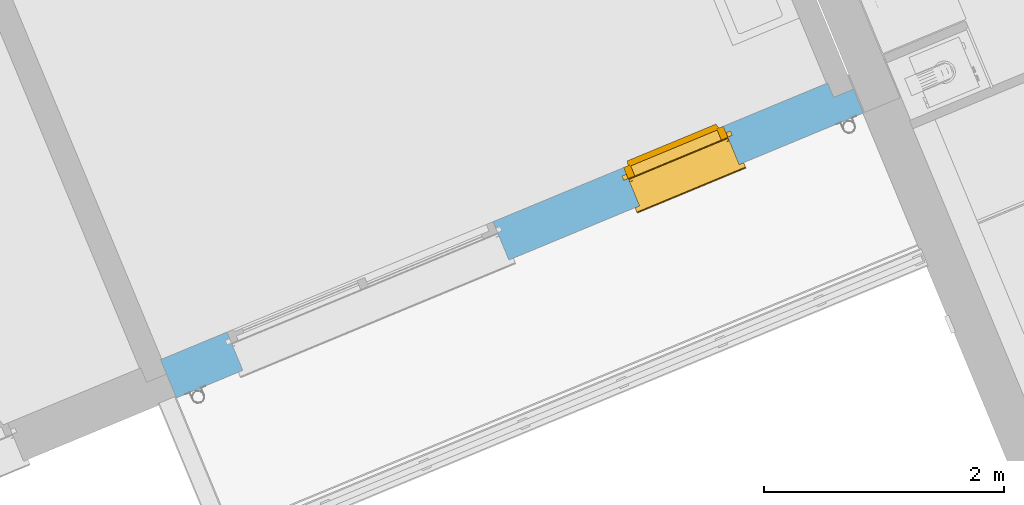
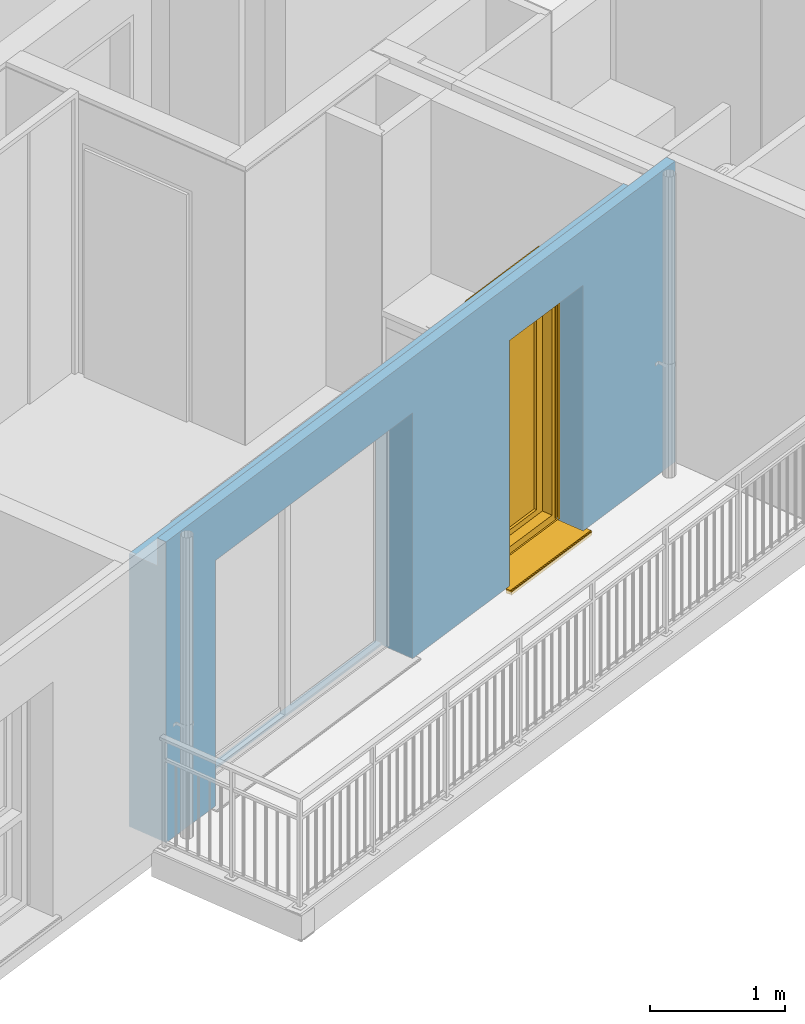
# One storey, part 8 of 90: 1 window, 2 openings, plus 1 element that does not belong to this part.
"""IFC2X3 building model written with IfcOpenShell, lengths in metres."""

from ifc_helpers import new_model, entity, si_unit, converted_unit, derived_unit, money_unit, direction, frame, origin_with_axes, place, context, subcontext, project, spatial, open_shell, faceted_brep, surface_model, material, material_list, type_object, element, fill, save


model = new_model("IFC2X3")

# Units and contexts
model_context = context("Model", 3, precision=1e-05, world=origin_with_axes(), true_north=direction((0.0, 1.0)))
body_context = subcontext(model_context, "Body", "Model", "MODEL_VIEW")
ifc_project = project(units=[si_unit("LENGTHUNIT", "METRE"), si_unit("AREAUNIT", "SQUARE_METRE"), si_unit("VOLUMEUNIT", "CUBIC_METRE"), converted_unit("PLANEANGLEUNIT", "DEGREE", entity("IfcPlaneAngleMeasure", 0.0174532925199), si_unit("PLANEANGLEUNIT", "RADIAN"), dimensions=[0, 0, 0, 0, 0, 0, 0]), si_unit("SOLIDANGLEUNIT", "STERADIAN"), money_unit("EUR"), converted_unit("TIMEUNIT", "Year", entity("IfcTimeMeasure", 31556926.0), si_unit("TIMEUNIT", "SECOND"), dimensions=[0, 0, 1, 0, 0, 0, 0]), si_unit("MASSUNIT", "GRAM", prefix="KILO"), si_unit("THERMODYNAMICTEMPERATUREUNIT", "DEGREE_CELSIUS"), si_unit("LUMINOUSINTENSITYUNIT", "LUMEN"), si_unit("ENERGYUNIT", "JOULE", prefix="MEGA"), derived_unit("THERMALCONDUCTANCEUNIT", [(si_unit("POWERUNIT", "WATT"), 1), (si_unit("LENGTHUNIT", "METRE"), -1), (si_unit("THERMODYNAMICTEMPERATUREUNIT", "KELVIN"), -1)]), derived_unit("SPECIFICHEATCAPACITYUNIT", [(si_unit("ENERGYUNIT", "JOULE"), 1), (si_unit("MASSUNIT", "GRAM", prefix="KILO"), -1), (si_unit("THERMODYNAMICTEMPERATUREUNIT", "KELVIN"), -1)]), derived_unit("MASSDENSITYUNIT", [(si_unit("MASSUNIT", "GRAM", prefix="KILO"), 1), (si_unit("VOLUMEUNIT", "CUBIC_METRE"), -1)])], contexts=[model_context])

# Site, building, storey
site_placement = place(None, origin_with_axes())
site = spatial("IfcSite", under=ifc_project, at=site_placement, Name="Site", CompositionType="ELEMENT")
building_placement = place(site_placement, origin_with_axes())
building = spatial("IfcBuilding", under=site, at=building_placement, Name="Bâtiment", CompositionType="ELEMENT")
storey_placement = place(building_placement, frame((0.0, 0.0, 2.72), z_axis=(0.0, 0.0, 1.0), x_axis=(1.0, 0.0, 0.0)))
storey = spatial("IfcBuildingStorey", under=building, at=storey_placement, Name="R+1", CompositionType="ELEMENT", Elevation=2.72)

# Wall, openings, window
ifc_material_1 = material(Name="Finition int - Plaque de plâtre")
ifc_material_2 = material(Name="Isolation - Polystyrène extrudé")
ifc_material_3 = material(Name="Bloc ELITHERM")
ifc_material_4 = material(Name="Isolation - Polystyrène expansé")
ifc_material_5 = material(Name="Mortier")
ifc_material_6 = material(Name="Béton cellulaire")
ifc_material_7 = material(Name="Finition ext - Crépis")
ifc_material_list = material_list([ifc_material_1, ifc_material_2, ifc_material_3, ifc_material_4, ifc_material_5, ifc_material_6, ifc_material_7])
wall_type = type_object("IfcWallType", Name="Mur ALKERN + planelle 25 345 x 2720", PredefinedType="USERDEFINED")
wall_placement = place(storey_placement, frame((-27.3367270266, -27.0787857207, 0.0), z_axis=(0.0, 0.0, 1.0), x_axis=(0.923701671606, 0.383112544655, 0.0)))
wall = element("IfcWall", 1, at=wall_placement, inside=storey, type_object=wall_type, material=ifc_material_list, Name="Mue bloc ALKERN isolé", ObjectType="SOLIDWALL", context=body_context, shape_type="Brep", body=[
    faceted_brep([(0.0, 0.334999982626, 0.0), (6.01608839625, 0.334999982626, 0.0), (6.01608839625, 0.334999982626, 2.47000000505), (0.0, 0.334999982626, 2.47000000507), (0.598463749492, 0.334999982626, 2.22), (0.598463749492, 0.334999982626, 2.4), (2.99846374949, 0.334999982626, 2.4), (2.99846374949, 0.334999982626, 2.22), (2.99846374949, 0.334999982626, 0.02), (0.598463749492, 0.334999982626, 0.02), (4.17589093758, 0.334999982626, 2.22), (4.17589093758, 0.334999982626, 2.4), (5.07589093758, 0.334999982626, 2.4), (5.07589093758, 0.334999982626, 2.22), (5.07589093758, 0.334999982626, 0.02), (4.17589093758, 0.334999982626, 0.02), (0.0, 0.344999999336, 0.0), (6.01608839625, 0.344999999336, 0.0), (6.01608839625, 0.344999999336, 2.47000000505), (0.0, 0.344999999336, 2.47000000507), (0.598463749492, 0.344999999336, 2.22), (0.598463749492, 0.344999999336, 2.4), (0.598463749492, 0.344999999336, 0.02), (2.99846374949, 0.344999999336, 2.4), (2.99846374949, 0.344999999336, 2.22), (2.99846374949, 0.344999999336, 0.02), (4.17589093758, 0.344999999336, 2.22), (4.17589093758, 0.344999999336, 2.4), (4.17589093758, 0.344999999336, 0.02), (5.07589093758, 0.344999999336, 2.4), (5.07589093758, 0.344999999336, 2.22), (5.07589093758, 0.344999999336, 0.02)], [[[0, 1, 2, 3], [4, 5, 6, 7, 8, 9], [10, 11, 12, 13, 14, 15]], [[16, 17, 1, 0]], [[17, 18, 2, 1]], [[3, 2, 18, 19]], [[16, 0, 3, 19]], [[20, 21, 5, 4, 9, 22]], [[21, 23, 6, 5]], [[7, 6, 23, 24, 25, 8]], [[22, 9, 8, 25]], [[26, 27, 11, 10, 15, 28]], [[12, 11, 27, 29]], [[13, 12, 29, 30, 31, 14]], [[14, 31, 28, 15]], [[19, 18, 17, 16], [21, 20, 22, 25, 24, 23], [27, 26, 28, 31, 30, 29]]]),
    faceted_brep([(5.07589093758, 0.286, 0.02), (5.07589093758, 0.286, 0.0), (5.07589093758, 0.215000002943, 0.0), (5.07589093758, 0.215000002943, 0.02), (5.07589093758, 0.215, 2.22), (5.07589093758, 0.215, 2.4), (5.07589093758, 0.334999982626, 2.4), (5.07589093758, 0.334999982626, 2.22), (5.07589093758, 0.334999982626, 0.02), (4.17589093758, 0.286, 0.02), (4.17589093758, 0.286, 0.0), (4.17589093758, 0.215000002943, 0.0), (2.99846374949, 0.215000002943, 0.0), (2.99846374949, 0.286, 0.0), (0.598463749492, 0.286, 0.0), (0.598463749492, 0.215000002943, 0.0), (0.0, 0.215000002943, 0.0), (0.0, 0.334999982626, 0.0), (6.01608839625, 0.334999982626, 0.0), (6.01608839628, 0.215000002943, 0.0), (4.17589093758, 0.215000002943, 0.02), (4.17589093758, 0.215, 2.22), (4.17589093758, 0.215, 2.4), (6.01608839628, 0.215000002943, 2.47000000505), (0.0, 0.215000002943, 2.47000000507), (0.598463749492, 0.215000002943, 0.02), (0.598463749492, 0.215, 2.22), (0.598463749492, 0.215, 2.4), (2.99846374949, 0.215, 2.4), (2.99846374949, 0.215, 2.22), (2.99846374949, 0.215000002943, 0.02), (4.17589093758, 0.334999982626, 2.4), (0.0, 0.334999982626, 2.47000000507), (6.01608839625, 0.334999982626, 2.47000000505), (2.99846374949, 0.334999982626, 0.02), (2.99846374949, 0.334999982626, 2.22), (2.99846374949, 0.334999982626, 2.4), (0.598463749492, 0.334999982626, 2.4), (0.598463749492, 0.334999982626, 2.22), (0.598463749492, 0.334999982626, 0.02), (4.17589093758, 0.334999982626, 2.22), (4.17589093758, 0.334999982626, 0.02), (2.99846374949, 0.286, 0.02), (0.598463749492, 0.286, 0.02)], [[[0, 1, 2, 3, 4, 5, 6, 7, 8]], [[0, 9, 10, 1]], [[10, 11, 12, 13, 14, 15, 16, 17, 18, 19, 2, 1]], [[11, 20, 21, 22, 5, 4, 3, 2, 19, 23, 24, 16, 15, 25, 26, 27, 28, 29, 30, 12]], [[22, 31, 6, 5]], [[32, 33, 18, 17], [34, 35, 36, 37, 38, 39], [8, 7, 6, 31, 40, 41]], [[9, 0, 8, 41]], [[20, 11, 10, 9, 41, 40, 31, 22, 21]], [[36, 35, 34, 42, 13, 12, 30, 29, 28]], [[42, 43, 14, 13]], [[37, 27, 26, 25, 15, 14, 43, 39, 38]], [[17, 16, 24, 32]], [[18, 33, 23, 19]], [[24, 23, 33, 32]], [[27, 37, 36, 28]], [[43, 42, 34, 39]]]),
    faceted_brep([(5.07589093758, 0.015, 0.02), (5.07589093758, 0.015, 0.0), (6.19608837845, 0.015, 0.0), (6.19608837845, 0.015, 2.47000000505), (0.0, 0.015, 2.47000000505), (0.0, 0.015, 0.0), (0.598463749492, 0.015, 0.0), (0.598463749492, 0.015, 0.02), (0.598463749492, 0.015, 2.22), (2.99846374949, 0.015, 2.22), (2.99846374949, 0.015, 0.02), (2.99846374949, 0.015, 0.0), (4.17589093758, 0.015, 0.0), (4.17589093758, 0.015, 0.02), (4.17589093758, 0.015, 2.22), (5.07589093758, 0.015, 2.22), (5.07589093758, 0.215000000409, 0.02), (5.07589093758, 0.215000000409, 0.0), (6.1960883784, 0.215000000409, 0.0), (6.1960883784, 0.215000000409, 2.47000000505), (6.19608837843, 0.0830000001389, 2.47000000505), (0.0, 0.0830000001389, 2.47000000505), (0.0, 0.215000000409, 2.47000000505), (0.0, 0.215000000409, 0.0), (0.598463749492, 0.215000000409, 0.0), (0.598463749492, 0.215000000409, 0.02), (0.598463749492, 0.215000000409, 2.22), (2.99846374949, 0.215000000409, 2.22), (2.99846374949, 0.215000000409, 0.02), (2.99846374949, 0.215000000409, 0.0), (4.17589093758, 0.215000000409, 0.0), (4.17589093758, 0.215000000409, 0.02), (4.17589093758, 0.215000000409, 2.22), (5.07589093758, 0.215000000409, 2.22)], [[[0, 1, 2, 3, 4, 5, 6, 7, 8, 9, 10, 11, 12, 13, 14, 15]], [[1, 0, 16, 17]], [[1, 17, 18, 2]], [[2, 18, 19, 20, 3]], [[4, 3, 20, 21]], [[21, 22, 23, 5, 4]], [[5, 23, 24, 6]], [[6, 24, 25, 7]], [[26, 8, 7, 25]], [[27, 9, 8, 26]], [[9, 27, 28, 10]], [[28, 29, 11, 10]], [[30, 12, 11, 29]], [[31, 13, 12, 30]], [[13, 31, 32, 14]], [[14, 32, 33, 15]], [[16, 0, 15, 33]], [[17, 16, 33, 32, 31, 30, 29, 28, 27, 26, 25, 24, 23, 22, 19, 18]], [[21, 20, 19, 22]]]),
    faceted_brep([(0.0, 0.063, 2.48000000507), (6.01608839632, 0.063, 2.48000000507), (6.01608839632, 0.063, 2.52), (6.19608839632, 0.063, 2.52), (6.19608839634, 0.063, 2.72000000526), (0.0, 0.063, 2.72000000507), (0.0, 0.083, 2.48000000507), (6.01608839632, 0.083, 2.48000000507), (6.01608839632, 0.0829999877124, 2.52), (6.19608839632, 0.0829999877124, 2.52), (6.19608839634, 0.0829999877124, 2.72000000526), (0.0, 0.083, 2.72000000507)], [[[0, 1, 2, 3, 4, 5]], [[6, 7, 1, 0]], [[8, 2, 1, 7]], [[8, 9, 3, 2]], [[4, 3, 9, 10]], [[11, 5, 4, 10]], [[11, 6, 0, 5]], [[9, 8, 7, 6, 11, 10]]]),
    faceted_brep([(0.0, 0.015, 2.47000000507), (6.19608837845, 0.015, 2.47000000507), (6.19608837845, 0.015, 2.48000000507), (0.0, 0.015, 2.48000000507), (0.0, 0.083, 2.47000000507), (6.19608837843, 0.083, 2.47000000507), (6.19608837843, 0.083, 2.48000000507), (0.0, 0.083, 2.48000000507)], [[[0, 1, 2, 3]], [[4, 5, 1, 0]], [[5, 6, 2, 1]], [[3, 2, 6, 7]], [[0, 3, 7, 4]], [[7, 6, 5, 4]]]),
    faceted_brep([(0.0, 0.015, 2.48000000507), (6.19608837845, 0.015, 2.48000000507), (6.19608837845, 0.015, 2.52), (6.19608839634, 0.015, 2.72000000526), (0.0, 0.015, 2.72000000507), (0.0, 0.0630000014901, 2.48000000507), (6.19608837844, 0.0630000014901, 2.48000000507), (6.19608837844, 0.0630000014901, 2.52), (6.19608839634, 0.0630000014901, 2.72000000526), (0.0, 0.0630000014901, 2.72000000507)], [[[0, 1, 2, 3, 4]], [[5, 6, 1, 0]], [[6, 7, 2, 1]], [[3, 2, 7, 8]], [[4, 3, 8, 9]], [[4, 9, 5, 0]], [[8, 7, 6, 5, 9]]]),
    faceted_brep([(5.07589093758, 0.0, 0.02), (5.07589093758, 0.0, 0.0), (6.19608837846, 0.0, 0.0), (6.19608837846, 5.21252374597e-10, 2.52), (6.19608839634, 5.21252374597e-10, 2.72000000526), (0.0, 0.0, 2.72000000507), (0.0, 0.0, 0.0), (0.598463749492, 0.0, 0.0), (0.598463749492, 0.0, 0.02), (0.598463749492, 0.0, 2.22), (2.99846374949, 0.0, 2.22), (2.99846374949, 0.0, 0.02), (2.99846374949, 0.0, 0.0), (4.17589093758, 0.0, 0.0), (4.17589093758, 0.0, 0.02), (4.17589093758, 0.0, 2.22), (5.07589093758, 0.0, 2.22), (5.07589093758, 0.014999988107, 0.02), (5.07589093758, 0.014999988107, 0.0), (6.19608837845, 0.014999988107, 0.0), (6.19608837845, 0.014999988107, 2.52), (6.19608839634, 0.014999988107, 2.72000000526), (0.0, 0.014999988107, 2.72000000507), (0.0, 0.014999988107, 0.0), (0.598463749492, 0.014999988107, 0.0), (0.598463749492, 0.014999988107, 0.02), (0.598463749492, 0.014999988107, 2.22), (2.99846374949, 0.014999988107, 2.22), (2.99846374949, 0.014999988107, 0.02), (2.99846374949, 0.014999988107, 0.0), (4.17589093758, 0.014999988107, 0.0), (4.17589093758, 0.014999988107, 0.02), (4.17589093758, 0.014999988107, 2.22), (5.07589093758, 0.014999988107, 2.22)], [[[0, 1, 2, 3, 4, 5, 6, 7, 8, 9, 10, 11, 12, 13, 14, 15, 16]], [[1, 0, 17, 18]], [[1, 18, 19, 2]], [[2, 19, 20, 3]], [[21, 4, 3, 20]], [[22, 5, 4, 21]], [[23, 6, 5, 22]], [[6, 23, 24, 7]], [[7, 24, 25, 8]], [[26, 9, 8, 25]], [[27, 10, 9, 26]], [[10, 27, 28, 11]], [[28, 29, 12, 11]], [[30, 13, 12, 29]], [[31, 14, 13, 30]], [[14, 31, 32, 15]], [[15, 32, 33, 16]], [[17, 0, 16, 33]], [[18, 17, 33, 32, 31, 30, 29, 28, 27, 26, 25, 24, 23, 22, 21, 20, 19]]]),
])
opening_1_placement = place(wall_placement, frame((1.79846374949, 0.0, 0.02), z_axis=(0.0, 0.0, 1.0), x_axis=(1.0, 0.0, 0.0)))
element("IfcOpeningElement", 2, at=opening_1_placement, cuts=wall, Name="MEN 55", context=body_context, shape_type="Brep", body=[
    faceted_brep([(1.2, 0.245, 0.0), (-1.2, 0.245, 0.0), (-1.2, 0.834999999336, 0.0), (1.2, 0.834999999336, 0.0), (1.2, 0.245, 2.2), (-1.2, 0.245, 2.2), (-1.2, 0.834999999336, 2.2), (1.2, 0.834999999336, 2.2)], [[[0, 1, 2, 3]], [[0, 4, 5, 1]], [[1, 5, 6, 2]], [[3, 2, 6, 7]], [[4, 0, 3, 7]], [[5, 4, 7, 6]]]),
    faceted_brep([(1.2, 0.245, 0.0), (1.2, 0.245, 2.2), (1.2, -0.344999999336, 2.2), (1.2, -0.344999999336, 0.0), (-1.2, 0.245, 0.0), (-1.2, 0.245, 2.2), (-1.2, -0.344999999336, 2.2), (-1.2, -0.344999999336, 0.0)], [[[0, 1, 2, 3]], [[0, 4, 5, 1]], [[1, 5, 6, 2]], [[3, 2, 6, 7]], [[4, 0, 3, 7]], [[5, 4, 7, 6]]]),
    faceted_brep([(1.2, 0.245, 0.0), (1.2, 0.245, 2.2), (1.2, -0.344999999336, 2.2), (1.2, -0.344999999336, 0.0), (-1.2, 0.245, 0.0), (-1.2, 0.245, 2.2), (-1.2, -0.344999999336, 2.2), (-1.2, -0.344999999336, 0.0)], [[[0, 1, 2, 3]], [[0, 4, 5, 1]], [[1, 5, 6, 2]], [[3, 2, 6, 7]], [[4, 0, 3, 7]], [[5, 4, 7, 6]]]),
    faceted_brep([(1.2, 0.215, 2.2), (-1.2, 0.215, 2.2), (-1.2, 0.804999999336, 2.2), (1.2, 0.804999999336, 2.2), (1.2, 0.215, 2.38), (-1.2, 0.215, 2.38), (-1.2, 0.804999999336, 2.38), (1.2, 0.804999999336, 2.38)], [[[0, 1, 2, 3]], [[0, 4, 5, 1]], [[1, 5, 6, 2]], [[3, 2, 6, 7]], [[4, 0, 3, 7]], [[5, 4, 7, 6]]]),
    faceted_brep([(1.2, 0.286, 0.0), (-1.2, 0.286, 0.0), (-1.2, -0.303999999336, 0.0), (1.2, -0.303999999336, 0.0), (1.2, 0.286, -0.06), (-1.2, 0.286, -0.06), (-1.2, -0.303999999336, -0.06), (1.2, -0.303999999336, -0.06)], [[[0, 1, 2, 3]], [[0, 4, 5, 1]], [[1, 5, 6, 2]], [[3, 2, 6, 7]], [[4, 0, 3, 7]], [[5, 4, 7, 6]]]),
])
opening_2_placement = place(wall_placement, frame((4.62589093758, 0.0, 0.02), z_axis=(0.0, 0.0, 1.0), x_axis=(1.0, 0.0, 0.0)))
opening_2 = element("IfcOpeningElement", 3, at=opening_2_placement, cuts=wall, Name="MEN 56", context=body_context, shape_type="Brep", body=[
    faceted_brep([(-0.45, 0.834999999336, 0.0), (0.45, 0.834999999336, 0.0), (0.45, 0.245, 0.0), (-0.45, 0.245, 0.0), (-0.45, 0.834999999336, 2.2), (0.45, 0.834999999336, 2.2), (0.45, 0.245, 2.2), (-0.45, 0.245, 2.2)], [[[0, 1, 2, 3]], [[0, 4, 5, 1]], [[1, 5, 6, 2]], [[3, 2, 6, 7]], [[4, 0, 3, 7]], [[5, 4, 7, 6]]]),
    faceted_brep([(-0.45, -0.344999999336, 0.0), (-0.45, -0.344999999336, 2.2), (-0.45, 0.245, 2.2), (-0.45, 0.245, 0.0), (0.45, -0.344999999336, 0.0), (0.45, -0.344999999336, 2.2), (0.45, 0.245, 2.2), (0.45, 0.245, 0.0)], [[[0, 1, 2, 3]], [[0, 4, 5, 1]], [[1, 5, 6, 2]], [[3, 2, 6, 7]], [[4, 0, 3, 7]], [[5, 4, 7, 6]]]),
    faceted_brep([(-0.45, -0.344999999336, 0.0), (-0.45, -0.344999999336, 2.2), (-0.45, 0.245, 2.2), (-0.45, 0.245, 0.0), (0.45, -0.344999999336, 0.0), (0.45, -0.344999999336, 2.2), (0.45, 0.245, 2.2), (0.45, 0.245, 0.0)], [[[0, 1, 2, 3]], [[0, 4, 5, 1]], [[1, 5, 6, 2]], [[3, 2, 6, 7]], [[4, 0, 3, 7]], [[5, 4, 7, 6]]]),
    faceted_brep([(-0.45, 0.804999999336, 2.2), (0.45, 0.804999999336, 2.2), (0.45, 0.215, 2.2), (-0.45, 0.215, 2.2), (-0.45, 0.804999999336, 2.38), (0.45, 0.804999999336, 2.38), (0.45, 0.215, 2.38), (-0.45, 0.215, 2.38)], [[[0, 1, 2, 3]], [[0, 4, 5, 1]], [[1, 5, 6, 2]], [[3, 2, 6, 7]], [[4, 0, 3, 7]], [[5, 4, 7, 6]]]),
    faceted_brep([(-0.45, -0.303999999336, 0.0), (0.45, -0.303999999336, 0.0), (0.45, 0.286, 0.0), (-0.45, 0.286, 0.0), (-0.45, -0.303999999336, -0.06), (0.45, -0.303999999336, -0.06), (0.45, 0.286, -0.06), (-0.45, 0.286, -0.06)], [[[0, 1, 2, 3]], [[0, 4, 5, 1]], [[1, 5, 6, 2]], [[3, 2, 6, 7]], [[4, 0, 3, 7]], [[5, 4, 7, 6]]]),
])
window_style = type_object("IfcWindowStyle", Name="Baie générique 2017 v2", ConstructionType="NOTDEFINED", OperationType="NOTDEFINED", ParameterTakesPrecedence=False, Sizeable=False)
window_placement = place(opening_2_placement, frame((-0.45, 0.0, 0.0), z_axis=(0.0, 0.0, 1.0), x_axis=(1.0, 0.0, 0.0)))
window = element("IfcWindow", 4, at=window_placement, inside=storey, type_object=window_style, Name="MEN 56", ObjectType="WINDOW", OverallHeight=2.2, OverallWidth=0.9, context=body_context, shape_type="SurfaceModel", body=[
    faceted_brep([(0.0, 0.345, 0.0), (0.9, 0.345, 0.0), (0.9, 0.245, 0.0), (0.0, 0.245, 0.0), (0.0, 0.345, 2.2), (0.9, 0.345, 2.2), (0.06, 0.345, 0.05), (0.84, 0.345, 0.05), (0.84, 0.345, 2.15), (0.06, 0.345, 2.15), (0.9, 0.245, 2.2), (0.0, 0.245, 2.2), (0.06, 0.245, 0.05), (0.06, 0.245, 2.15), (0.84, 0.245, 2.15), (0.84, 0.245, 0.05)], [[[0, 1, 2, 3]], [[0, 4, 5, 1], [6, 7, 8, 9]], [[1, 5, 10, 2]], [[3, 2, 10, 11], [12, 13, 14, 15]], [[4, 0, 3, 11]], [[5, 4, 11, 10]], [[7, 6, 12, 15]], [[8, 7, 15, 14]], [[9, 8, 14, 13]], [[6, 9, 13, 12]]]),
    faceted_brep([(0.77, 0.335, 2.08), (0.77, 0.385, 2.08), (0.77, 0.385, 0.1), (0.77, 0.335, 0.1), (0.13, 0.335, 2.08), (0.13, 0.385, 2.08), (0.850012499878, 0.385000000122, 0.039987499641), (0.049987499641, 0.385000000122, 0.039987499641), (0.049987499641, 0.385000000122, 2.16001250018), (0.850012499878, 0.385000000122, 2.16001250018), (0.13, 0.385, 0.1), (0.13, 0.335, 0.1), (0.84, 0.335, 2.15), (0.06, 0.335, 2.15), (0.06, 0.335, 0.05), (0.84, 0.335, 0.05), (0.86, 0.34505, 0.03), (0.04, 0.34505, 0.03), (0.04, 0.34505, 2.17), (0.86, 0.34505, 2.17), (0.84, 0.34505, 2.15), (0.06, 0.34505, 2.15), (0.06, 0.34505, 0.05), (0.84, 0.34505, 0.05)], [[[0, 1, 2, 3]], [[4, 5, 1, 0]], [[6, 7, 8, 9], [2, 1, 5, 10]], [[11, 3, 2, 10]], [[12, 13, 14, 15], [0, 3, 11, 4]], [[4, 11, 10, 5]], [[6, 16, 17, 7]], [[7, 17, 18, 8]], [[8, 18, 19, 9]], [[9, 19, 16, 6]], [[20, 21, 13, 12]], [[21, 22, 14, 13]], [[22, 23, 15, 14]], [[23, 20, 12, 15]], [[19, 18, 17, 16], [21, 20, 23, 22]]]),
    surface_model("IfcShellBasedSurfaceModel", [(0.06, 0.385, 0.05), (0.06, 0.36, 0.05), (0.06, 0.36, 2.15), (0.06, 0.385, 2.15)], [open_shell([[[0, 1, 2, 3]]])]),
    surface_model("IfcShellBasedSurfaceModel", [(0.84, 0.385, 0.05), (0.84, 0.36, 0.05), (0.84, 0.36, 2.15), (0.84, 0.385, 2.15)], [open_shell([[[0, 1, 2, 3]]])]),
    surface_model("IfcShellBasedSurfaceModel", [(0.06, 0.385, 0.05), (0.06, 0.36, 0.05), (0.84, 0.36, 0.05), (0.84, 0.385, 0.05)], [open_shell([[[0, 1, 2, 3]]])]),
    surface_model("IfcShellBasedSurfaceModel", [(0.06, 0.385, 2.15), (0.06, 0.36, 2.15), (0.84, 0.36, 2.15), (0.84, 0.385, 2.15)], [open_shell([[[0, 1, 2, 3]]])]),
    surface_model("IfcShellBasedSurfaceModel", [(0.06, 0.36, 0.05), (0.06, 0.335, 0.05), (0.06, 0.335, 2.15), (0.06, 0.36, 2.15)], [open_shell([[[0, 1, 2, 3]]])]),
    surface_model("IfcShellBasedSurfaceModel", [(0.84, 0.36, 0.05), (0.84, 0.335, 0.05), (0.84, 0.335, 2.15), (0.84, 0.36, 2.15)], [open_shell([[[0, 1, 2, 3]]])]),
    surface_model("IfcShellBasedSurfaceModel", [(0.06, 0.36, 0.05), (0.06, 0.335, 0.05), (0.84, 0.335, 0.05), (0.84, 0.36, 0.05)], [open_shell([[[0, 1, 2, 3]]])]),
    surface_model("IfcShellBasedSurfaceModel", [(0.06, 0.36, 2.15), (0.06, 0.335, 2.15), (0.84, 0.335, 2.15), (0.84, 0.36, 2.15)], [open_shell([[[0, 1, 2, 3]]])]),
    faceted_brep([(0.13, 0.3625, 0.1), (0.77, 0.3625, 0.1), (0.77, 0.3575, 0.1), (0.13, 0.3575, 0.1), (0.13, 0.3625, 2.08), (0.77, 0.3625, 2.08), (0.77, 0.3575, 2.08), (0.13, 0.3575, 2.08)], [[[0, 1, 2, 3]], [[0, 4, 5, 1]], [[1, 5, 6, 2]], [[3, 2, 6, 7]], [[4, 0, 3, 7]], [[5, 4, 7, 6]]]),
    faceted_brep([(0.0, 0.215, 0.0), (0.025, 0.215, 0.0), (0.025, 0.215, 2.2), (0.0, 0.215, 2.2), (0.0, 0.243, 0.0), (0.025, 0.243, 0.0), (0.025, 0.241, 0.0), (0.002, 0.241, 0.0), (0.002, 0.217, 0.0), (0.025, 0.217, 0.0), (0.025, 0.217, 2.2), (0.002, 0.217, 2.2), (0.002, 0.241, 2.2), (0.025, 0.241, 2.2), (0.025, 0.243, 2.2), (0.0, 0.243, 2.2)], [[[0, 1, 2, 3]], [[0, 4, 5, 6, 7, 8, 9, 1]], [[1, 9, 10, 2]], [[3, 2, 10, 11, 12, 13, 14, 15]], [[4, 0, 3, 15]], [[5, 4, 15, 14]], [[6, 5, 14, 13]], [[7, 6, 13, 12]], [[8, 7, 12, 11]], [[9, 8, 11, 10]]]),
    faceted_brep([(0.9, 0.215, 0.0), (0.9, 0.215, 2.2), (0.875, 0.215, 2.2), (0.875, 0.215, 0.0), (0.9, 0.243, 0.0), (0.9, 0.243, 2.2), (0.875, 0.243, 2.2), (0.875, 0.241, 2.2), (0.898, 0.241, 2.2), (0.898, 0.217, 2.2), (0.875, 0.217, 2.2), (0.875, 0.217, 0.0), (0.898, 0.217, 0.0), (0.898, 0.241, 0.0), (0.875, 0.241, 0.0), (0.875, 0.243, 0.0)], [[[0, 1, 2, 3]], [[4, 5, 1, 0]], [[1, 5, 6, 7, 8, 9, 10, 2]], [[3, 2, 10, 11]], [[0, 3, 11, 12, 13, 14, 15, 4]], [[15, 6, 5, 4]], [[14, 7, 6, 15]], [[13, 8, 7, 14]], [[12, 9, 8, 13]], [[11, 10, 9, 12]]]),
    faceted_brep([(0.898, 0.217, 2.2), (0.002, 0.217, 2.2), (0.002, 0.217, 2.378), (0.898, 0.217, 2.378), (0.898, 0.215, 2.2), (0.002, 0.215, 2.2), (0.002, 0.215, 2.38), (0.002, 0.415, 2.38), (0.002, 0.415, 2.2), (0.002, 0.413, 2.2), (0.002, 0.413, 2.378), (0.898, 0.413, 2.378), (0.898, 0.413, 2.2), (0.898, 0.415, 2.2), (0.898, 0.415, 2.38), (0.898, 0.215, 2.38)], [[[0, 1, 2, 3]], [[4, 5, 1, 0]], [[1, 5, 6, 7, 8, 9, 10, 2]], [[3, 2, 10, 11]], [[0, 3, 11, 12, 13, 14, 15, 4]], [[15, 6, 5, 4]], [[14, 7, 6, 15]], [[13, 8, 7, 14]], [[12, 9, 8, 13]], [[11, 10, 9, 12]]]),
    faceted_brep([(0.898, 0.317469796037, 2.27436337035), (0.898, 0.325, 2.29), (0.898, 0.317469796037, 2.30563662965), (0.898, 0.300549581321, 2.30949855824), (0.898, 0.286980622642, 2.29867767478), (0.898, 0.286980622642, 2.28132232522), (0.898, 0.300549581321, 2.27050144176), (0.002, 0.317469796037, 2.27436337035), (0.002, 0.325, 2.29), (0.002, 0.317469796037, 2.30563662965), (0.002, 0.300549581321, 2.30949855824), (0.002, 0.286980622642, 2.29867767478), (0.002, 0.286980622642, 2.28132232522), (0.002, 0.300549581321, 2.27050144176)], [[[0, 1, 2, 3, 4, 5, 6]], [[0, 7, 8, 1]], [[1, 8, 9, 2]], [[2, 9, 10, 3]], [[3, 10, 11, 4]], [[4, 11, 12, 5]], [[5, 12, 13, 6]], [[6, 13, 7, 0]], [[7, 13, 12, 11, 10, 9, 8]]]),
    faceted_brep([(0.888, 0.375275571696, 2.25615706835), (0.888, 0.383, 2.29), (0.888, 0.375275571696, 2.32384293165), (0.888, 0.353632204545, 2.35098285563), (0.888, 0.322356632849, 2.36604437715), (0.888, 0.287643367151, 2.36604437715), (0.888, 0.256367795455, 2.35098285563), (0.888, 0.234724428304, 2.32384293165), (0.888, 0.227, 2.29), (0.888, 0.234724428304, 2.25615706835), (0.888, 0.256367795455, 2.22901714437), (0.888, 0.287643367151, 2.21395562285), (0.888, 0.322356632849, 2.21395562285), (0.888, 0.353632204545, 2.22901714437), (0.012, 0.375275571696, 2.25615706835), (0.012, 0.383, 2.29), (0.012, 0.375275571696, 2.32384293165), (0.012, 0.353632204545, 2.35098285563), (0.012, 0.322356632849, 2.36604437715), (0.012, 0.287643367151, 2.36604437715), (0.012, 0.256367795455, 2.35098285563), (0.012, 0.234724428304, 2.32384293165), (0.012, 0.227, 2.29), (0.012, 0.234724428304, 2.25615706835), (0.012, 0.256367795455, 2.22901714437), (0.012, 0.287643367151, 2.21395562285), (0.012, 0.322356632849, 2.21395562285), (0.012, 0.353632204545, 2.22901714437)], [[[0, 1, 2, 3, 4, 5, 6, 7, 8, 9, 10, 11, 12, 13]], [[0, 14, 15, 1]], [[1, 15, 16, 2]], [[2, 16, 17, 3]], [[3, 17, 18, 4]], [[4, 18, 19, 5]], [[5, 19, 20, 6]], [[6, 20, 21, 7]], [[7, 21, 22, 8]], [[8, 22, 23, 9]], [[9, 23, 24, 10]], [[10, 24, 25, 11]], [[11, 25, 26, 12]], [[12, 26, 27, 13]], [[13, 27, 14, 0]], [[14, 27, 26, 25, 24, 23, 22, 21, 20, 19, 18, 17, 16, 15]]]),
    faceted_brep([(0.9, 0.415, 2.2), (0.898, 0.415, 2.2), (0.898, 0.415, 2.38), (0.9, 0.415, 2.38), (0.9, 0.215, 2.2), (0.898, 0.215, 2.2), (0.898, 0.215, 2.38), (0.9, 0.215, 2.38)], [[[0, 1, 2, 3]], [[4, 5, 1, 0]], [[1, 5, 6, 2]], [[3, 2, 6, 7]], [[0, 3, 7, 4]], [[7, 6, 5, 4]]]),
    faceted_brep([(0.002, 0.415, 2.2), (0.0, 0.415, 2.2), (0.0, 0.415, 2.38), (0.002, 0.415, 2.38), (0.002, 0.215, 2.2), (0.0, 0.215, 2.2), (0.0, 0.215, 2.38), (0.002, 0.215, 2.38)], [[[0, 1, 2, 3]], [[4, 5, 1, 0]], [[1, 5, 6, 2]], [[3, 2, 6, 7]], [[0, 3, 7, 4]], [[7, 6, 5, 4]]]),
    faceted_brep([(0.898, 0.241, 2.2), (0.002, 0.241, 2.2), (0.002, 0.413, 2.2), (0.898, 0.413, 2.2), (0.898, 0.241, 2.202), (0.002, 0.241, 2.202), (0.002, 0.413, 2.202), (0.898, 0.413, 2.202)], [[[0, 1, 2, 3]], [[4, 5, 1, 0]], [[1, 5, 6, 2]], [[3, 2, 6, 7]], [[0, 3, 7, 4]], [[7, 6, 5, 4]]]),
    faceted_brep([(0.012, 0.239, 2.2), (0.012, 0.239, 2.29), (0.888, 0.239, 2.29), (0.888, 0.239, 2.2), (0.012, 0.219, 2.2), (0.012, 0.219, 2.29), (0.888, 0.219, 2.29), (0.888, 0.219, 2.2)], [[[0, 1, 2, 3]], [[1, 0, 4, 5]], [[2, 1, 5, 6]], [[3, 2, 6, 7]], [[4, 0, 3, 7]], [[5, 4, 7, 6]]]),
    faceted_brep([(0.9, 0.243320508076, -0.01), (0.9, 0.245, -0.00373205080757), (0.94, 0.245, -0.00373205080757), (0.94, 0.246, 0.0), (-0.04, 0.246, 0.0), (-0.04, 0.245, -0.00373205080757), (0.0, 0.245, -0.00373205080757), (0.0, 0.243320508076, -0.01), (0.9, 0.236, -0.0173205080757), (0.9, 0.226, -0.02), (0.9, 0.0, -0.02), (0.9, 0.0, -0.06), (0.9, 0.245, -0.06), (0.94, 0.245, -0.06), (0.94, 0.286, -0.06), (0.94, 0.286, 0.0), (-0.04, 0.286, 0.0), (-0.04, 0.286, -0.06), (-0.04, 0.245, -0.06), (0.0, 0.245, -0.06), (0.0, 0.0, -0.02), (0.0, 0.226, -0.02), (0.0, 0.236, -0.0173205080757), (0.0, 0.0, -0.06), (-0.04, 0.0, -0.02), (-0.04, -0.04, -0.02), (0.94, -0.04, -0.02), (0.94, 0.0, -0.02), (0.94, 0.0, -0.06), (0.94, -0.03, -0.06), (-0.04, -0.03, -0.06), (-0.04, 0.0, -0.06), (-0.04, -0.05, -0.03), (-0.04, -0.0470710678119, -0.0229289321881), (-0.04, -0.03, -0.05), (-0.04, -0.04, -0.05), (-0.04, -0.04, -0.06), (-0.04, -0.05, -0.06), (0.94, -0.0470710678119, -0.0229289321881), (0.94, -0.05, -0.03), (0.94, -0.05, -0.06), (0.94, -0.04, -0.06), (0.94, -0.04, -0.05), (0.94, -0.03, -0.05)], [[[0, 1, 2, 3, 4, 5, 6, 7]], [[1, 0, 8, 9, 10, 11, 12]], [[13, 2, 1, 12]], [[2, 13, 14, 15, 3]], [[16, 4, 3, 15]], [[4, 16, 17, 18, 5]], [[5, 18, 19, 6]], [[20, 21, 22, 7, 6, 19, 23]], [[8, 0, 7, 22]], [[9, 8, 22, 21]], [[10, 9, 21, 20, 24, 25, 26, 27]], [[10, 27, 28, 11]], [[11, 28, 29, 30, 31, 23, 19, 18, 17, 14, 13, 12]], [[17, 16, 15, 14]], [[20, 23, 31, 24]], [[32, 33, 25, 24, 31, 30, 34, 35, 36, 37]], [[25, 33, 38, 26]], [[28, 27, 26, 38, 39, 40, 41, 42, 43, 29]], [[34, 30, 29, 43]], [[33, 32, 39, 38]], [[35, 34, 43, 42]], [[36, 35, 42, 41]], [[37, 36, 41, 40]], [[32, 37, 40, 39]]]),
])
fill(opening_2, window)

save(model, "model.ifc")
